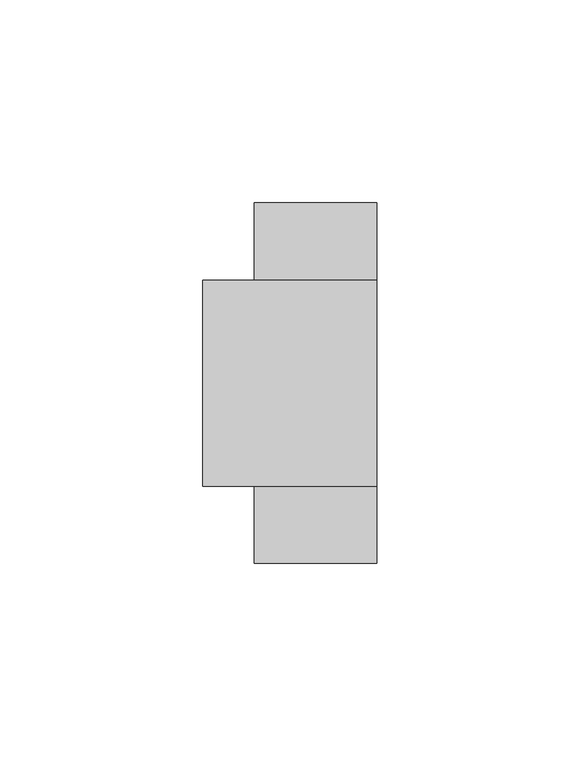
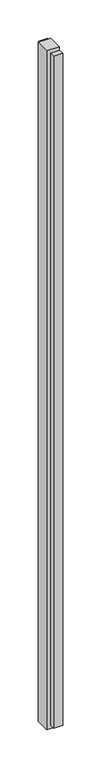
"""IFC4 building model written with IfcOpenShell, lengths in millimetres: furniture geometry, Allsteel - Aspect - Trim - Vertical Trim Kit : Allsteel - Aspect - Trim - Vertical Trim Kit."""

import ifcopenshell
import ifcopenshell.guid

model = None  # the IFC model being written
_history = None  # IfcOwnerHistory: only IFC2X3 demands one
_inside = {}  # id of a spatial element -> (the spatial element, [elements in it])
_under = {}  # id of a project, library or spatial element -> (it, [spatial elements below it])
_declared = {}  # id of a project -> (the project, [libraries it declares])
_typed = {}  # id of a type object -> (the type object, [elements of that type])
_made_of = {}  # id of a material, layer set ... -> (it, [elements and type objects made of it])


def new_model(schema):
    """Start an empty IFC model of exactly this schema.

    Asked for "IFC4X3", IfcOpenShell would pick the latest addendum, in which some entities
    have other attributes; the version numbers below select the first issue.
    IFC2X3 requires an IfcOwnerHistory on every rooted entity: one is made here for all.
    """
    global model, _history
    if schema == "IFC4X3":
        model = ifcopenshell.file(schema_version=(4, 3, 0, 0))
    else:
        model = ifcopenshell.file(schema=schema)
    _inside.clear()
    _under.clear()
    _declared.clear()
    _typed.clear()
    _made_of.clear()
    _history = None
    if model.schema == "IFC2X3":
        org = make("IfcOrganization", Name="unknown")
        user = make(
            "IfcPersonAndOrganization",
            ThePerson=make("IfcPerson", FamilyName="unknown"),
            TheOrganization=org,
        )
        app = make(
            "IfcApplication",
            ApplicationDeveloper=org,
            Version="unknown",
            ApplicationFullName="unknown",
            ApplicationIdentifier="unknown",
        )
        _history = make(
            "IfcOwnerHistory",
            OwningUser=user,
            OwningApplication=app,
            ChangeAction="ADDED",
            CreationDate=0,
        )
    return model


def make(cls, **values):
    """One entity of the class cls with the attributes given. An attribute that is None is left unset."""
    return model.create_entity(
        cls, **{name: value for name, value in values.items() if value is not None}
    )


def rooted(cls, **values):
    """An entity with a GlobalId (a new one), such as an element, a storey or a relation."""
    return make(cls, GlobalId=ifcopenshell.guid.new(), OwnerHistory=_history, **values)


def si_unit(unit_type, name, prefix=None):
    """IfcSIUnit, for example si_unit("LENGTHUNIT", "METRE", prefix="MILLI")."""
    return make("IfcSIUnit", UnitType=unit_type, Prefix=prefix, Name=name)


def assignment(units):
    """IfcUnitAssignment: the units of a project."""
    return None if units is None else make("IfcUnitAssignment", Units=units)


def point(xyz):
    """IfcCartesianPoint."""
    return None if xyz is None else make("IfcCartesianPoint", Coordinates=xyz)


def direction(xyz):
    """IfcDirection."""
    return None if xyz is None else make("IfcDirection", DirectionRatios=xyz)


def frame(location, z_axis=None, x_axis=None):
    """IfcAxis2Placement3D, a coordinate frame: its origin and axes. An axis left out is left unset."""
    return make(
        "IfcAxis2Placement3D",
        Location=point(location),
        Axis=direction(z_axis),
        RefDirection=direction(x_axis),
    )


def origin():
    """The frame at (0, 0, 0) with its axes left unset."""
    return frame((0.0, 0.0, 0.0))


def place(relative_to, where):
    """IfcLocalPlacement: puts the frame where relative to a parent placement (None: the world)."""
    return make(
        "IfcLocalPlacement", PlacementRelTo=relative_to, RelativePlacement=where
    )


def context(
    kind, dimensions, precision=None, world=None, true_north=None, identifier=None
):
    """IfcGeometricRepresentationContext, for example the 3D "Model" context."""
    return make(
        "IfcGeometricRepresentationContext",
        ContextIdentifier=identifier,
        ContextType=kind,
        CoordinateSpaceDimension=dimensions,
        Precision=precision,
        WorldCoordinateSystem=world,
        TrueNorth=true_north,
    )


def project(units=None, contexts=None):
    """IfcProject with its units and contexts."""
    return rooted(
        "IfcProject",
        Name="project",
        RepresentationContexts=contexts,
        UnitsInContext=assignment(units),
    )


def spatial(cls, under=None, at=None, **own):
    """A site, building, storey or space (cls), placed at a placement, below another one or the project."""
    s = rooted(cls, ObjectPlacement=at, **own)
    if under is not None:
        _under.setdefault(under.id(), (under, []))[1].append(s)
    return s


def faces_of(points, faces, orient=None, outer=None):
    """IfcFace entities. A face is a list of loops; a loop is a list of indices into points, from 0.

    orient and outer hold one flag for each loop. By default every Orientation is true, the
    first loop of a face is its IfcFaceOuterBound and the others are IfcFaceBound.
    """
    made = []
    for i, loops in enumerate(faces):
        bounds = []
        for j, loop in enumerate(loops):
            is_outer = j == 0 if outer is None else outer[i][j]
            bounds.append(
                make(
                    "IfcFaceOuterBound" if is_outer else "IfcFaceBound",
                    Bound=make("IfcPolyLoop", Polygon=[points[k] for k in loop]),
                    Orientation=True if orient is None else orient[i][j],
                )
            )
        made.append(make("IfcFace", Bounds=bounds))
    return made


def faceted_brep(points, faces, orient=None, outer=None, voids=None):
    """IfcFacetedBrep: a solid bounded by flat faces; with voids (closed shells), ...WithVoids."""
    shared = [point(p) for p in points]
    hull = make("IfcClosedShell", CfsFaces=faces_of(shared, faces, orient, outer))
    if voids is None:
        return make("IfcFacetedBrep", Outer=hull)
    return make(
        "IfcFacetedBrepWithVoids",
        Outer=hull,
        Voids=[
            make(cls, CfsFaces=faces_of(shared, fs, o, b)) for cls, fs, o, b in voids
        ],
    )


def shape(context_of_items, identifier, shape_type, items):
    """IfcShapeRepresentation: the items that make up one representation, for example the "Body"."""
    return make(
        "IfcShapeRepresentation",
        ContextOfItems=context_of_items,
        RepresentationIdentifier=identifier,
        RepresentationType=shape_type,
        Items=items,
    )


def source(mapping_origin, context_of_items, identifier, shape_type, items):
    """IfcRepresentationMap: a shape defined once, which mapped items show again and again."""
    return make(
        "IfcRepresentationMap",
        MappingOrigin=mapping_origin,
        MappedRepresentation=shape(context_of_items, identifier, shape_type, items),
    )


def transform(
    local_origin,
    x_axis=None,
    y_axis=None,
    z_axis=None,
    scale=None,
    scale2=None,
    scale3=None,
    uniform=True,
):
    """IfcCartesianTransformationOperator3D, or its non-uniform kind. x_axis, y_axis, z_axis: its Axis1, 2, 3."""
    if uniform:
        return make(
            "IfcCartesianTransformationOperator3D",
            Axis1=direction(x_axis),
            Axis2=direction(y_axis),
            LocalOrigin=point(local_origin),
            Scale=scale,
            Axis3=direction(z_axis),
        )
    return make(
        "IfcCartesianTransformationOperator3DnonUniform",
        Axis1=direction(x_axis),
        Axis2=direction(y_axis),
        LocalOrigin=point(local_origin),
        Scale=scale,
        Axis3=direction(z_axis),
        Scale2=scale2,
        Scale3=scale3,
    )


def mapped(mapping_source, mapping_target):
    """IfcMappedItem: shows the shape of a source again, moved by a transform."""
    return make(
        "IfcMappedItem", MappingSource=mapping_source, MappingTarget=mapping_target
    )


def made_of(thing, what):
    """Note that an element or type object is made of a material, layer set ...; save() writes the relation."""
    if what is not None:
        _made_of.setdefault(what.id(), (what, []))[1].append(thing)
    return thing


def element(
    cls,
    number,
    at=None,
    inside=None,
    cuts=None,
    type_object=None,
    material=None,
    context=None,
    identifier="Body",
    shape_type=None,
    held_by="IfcProductDefinitionShape",
    body=None,
    shapes=None,
    **own,
):
    """One element of the class cls, such as IfcWall. Its Tag is "e" and its number.

    at: its placement. inside: the storey or other place that contains it. cuts: it is an
    opening in that element (IfcRelVoidsElement). A single representation is given by context,
    identifier, shape_type and body (its items); several are given by shapes. held_by: the class
    of the entity that holds the representations. save() writes the other relations.
    """
    e = rooted(cls, Tag="e%d" % number, ObjectPlacement=at, **own)
    if body is not None:
        shapes = [shape(context, identifier, shape_type, body)]
    if shapes is not None:
        e.Representation = make(held_by, Representations=shapes)
    if inside is not None:
        _inside.setdefault(inside.id(), (inside, []))[1].append(e)
    if cuts is not None:
        rooted(
            "IfcRelVoidsElement", RelatingBuildingElement=cuts, RelatedOpeningElement=e
        )
    if type_object is not None:
        _typed.setdefault(type_object.id(), (type_object, []))[1].append(e)
    return made_of(e, material)


def aggregate(whole, parts):
    """IfcRelAggregates: a whole, such as a stair, and the parts it consists of."""
    return rooted("IfcRelAggregates", RelatingObject=whole, RelatedObjects=parts)


def save(model, path):
    """Write the relations noted so far, then the file.

    IfcRelAggregates (storeys below a building ...), IfcRelContainedInSpatialStructure (elements
    in a storey), IfcRelDefinesByType, IfcRelAssociatesMaterial and IfcRelDeclares: one each for
    every whole, place, type object, material and project.
    """
    for whole, parts in _under.values():
        aggregate(whole, parts)
    for where, things in _inside.values():
        rooted(
            "IfcRelContainedInSpatialStructure",
            RelatedElements=things,
            RelatingStructure=where,
        )
    for kind, things in _typed.values():
        rooted("IfcRelDefinesByType", RelatedObjects=things, RelatingType=kind)
    for what, things in _made_of.values():
        rooted("IfcRelAssociatesMaterial", RelatedObjects=things, RelatingMaterial=what)
    for by, libraries in _declared.values():
        rooted("IfcRelDeclares", RelatingContext=by, RelatedDefinitions=libraries)
    model.write(path)


def furniture_2a700363(model_context):
    return source(origin(), model_context, "Body", "Brep", [
        faceted_brep([(0.0, 25.4, 2438.4), (-42.8625, 25.4, 2438.4), (-42.8625, -25.4, 2438.4), (0.0, -25.4, 2438.4), (0.0, 9.525, 2425.7), (0.0, -9.525, 2425.7), (-30.1625, -9.525, 2425.7), (-30.1625, 9.525, 2425.7), (0.0, 25.4, 2425.7), (-30.1625, 25.4, 2425.7), (-30.1625, 25.4, 12.7), (0.0, 25.4, 12.7), (0.0, 25.4, 0.0), (-42.8625, 25.4, 0.0), (-42.8625, -25.4, 0.0), (0.0, -25.4, 0.0), (0.0, -25.4, 12.7), (-30.1625, -25.4, 12.7), (-30.1625, -25.4, 2425.7), (0.0, -25.4, 2425.7), (0.0, -44.45, 2425.7), (0.0, -44.45, 12.7), (0.0, 44.45, 12.7), (0.0, 44.45, 2425.7), (0.0, 9.525, 12.7), (0.0, -9.525, 12.7), (-30.1625, -44.45, 2425.7), (-30.1625, 44.45, 2425.7), (-30.1625, 44.45, 12.7), (-30.1625, -44.45, 12.7), (-30.1625, -9.525, 12.7), (-30.1625, 9.525, 12.7)], [[[0, 1, 2, 3]], [[4, 5, 6, 7]], [[1, 0, 8, 9, 10, 11, 12, 13]], [[2, 1, 13, 14]], [[3, 2, 14, 15, 16, 17, 18, 19]], [[0, 3, 19, 20, 21, 16, 15, 12, 11, 22, 23, 8], [4, 24, 25, 5]], [[18, 26, 20, 19]], [[23, 27, 9, 8]], [[10, 28, 22, 11]], [[21, 29, 17, 16]], [[26, 18, 17, 29]], [[20, 26, 29, 21]], [[5, 25, 30, 6]], [[6, 30, 31, 7]], [[7, 31, 24, 4]], [[27, 23, 22, 28]], [[9, 27, 28, 10]], [[25, 24, 31, 30]], [[12, 15, 14, 13]]]),
    ])


if __name__ == "__main__":
    model = new_model("IFC4")
    model_context = context("Model", 3, world=origin())
    ifc_project = project(units=[si_unit("LENGTHUNIT", "METRE", prefix="MILLI")], contexts=[model_context])
    site = spatial("IfcSite", under=ifc_project)
    building = spatial("IfcBuilding", under=site)
    placement = place(None, origin())
    furniture_shape = furniture_2a700363(model_context)
    element("IfcFurniture", 1, ObjectType="Allsteel - Aspect - Trim - Vertical Trim Kit : Allsteel - Aspect - Trim - Vertical Trim Kit", at=placement, inside=building, context=model_context, shape_type="MappedRepresentation", body=[
        mapped(furniture_shape, transform((0.0, 0.0, 0.0), x_axis=(1.0, 0.0, 0.0), y_axis=(0.0, 1.0, 0.0), z_axis=(0.0, 0.0, 1.0))),
    ])
    save(model, "model.ifc")
